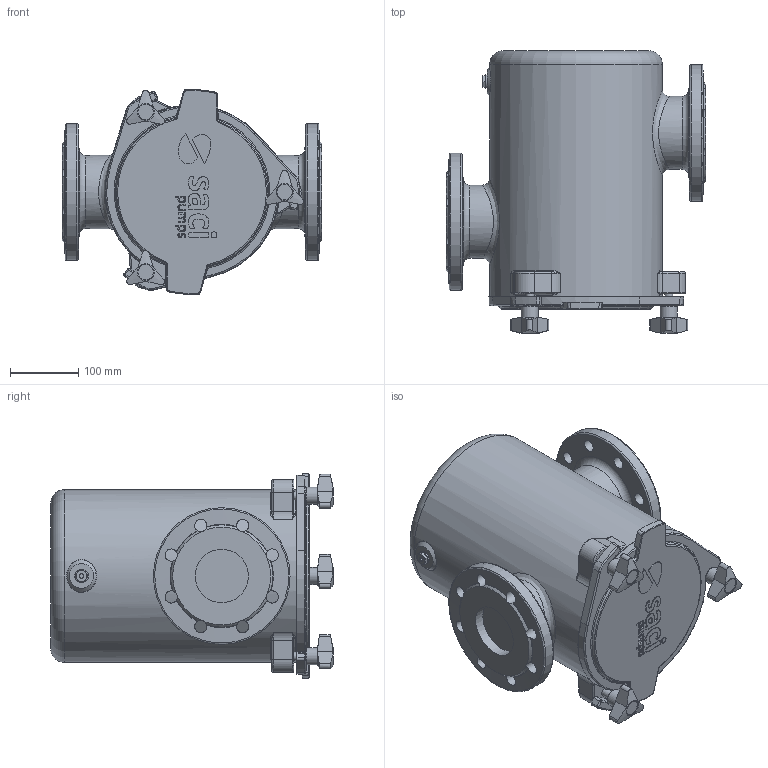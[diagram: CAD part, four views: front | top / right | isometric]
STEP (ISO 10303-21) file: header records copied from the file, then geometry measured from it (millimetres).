
FILE_DESCRIPTION(/* description */ ('Unknown'),/* implementation_level */ '2;1');
FILE_NAME(/* name */ 'PREFILTRO F 80-80 COMPLETO (8 AG)',/* time_stamp */ '2020-11-30T09:02:23+01:00',/* author */ ('Unknown'),/* organization */ ('Unknown'),/* preprocessor_version */ 'ST-DEVELOPER v16.7',/* originating_system */ 'Solid Edge',/* authorisation */ 'Unknown');
FILE_SCHEMA (('AUTOMOTIVE_DESIGN {1 0 10303 214 3 1 1}'));
Length unit declared in the file: millimetre
Products named in the file (1): PREFILTRO F  80-80 COMPLETO (8 AG)
Bounding box: 380 x 413 x 299.77 mm (x, y, z)
Volume: 21200052.9 mm3; surface area: 627645.1 mm2
Topology: 2 solids, 2 shells, 504 faces, 1295 edges, 803 vertices
Faces by surface type: bspline 134, cylinder 118, plane 117, torus 69, cone 66
Full cylindrical faces by diameter (mm): 10.106 x6, 12 x3, 18 x16, 20 x1, 22.5 x3, 25 x3, 78 x2, 107 x2, 200 x2, 253 x1
Entity records: 25451 total; most frequent: CARTESIAN_POINT 11433, ORIENTED_EDGE 2320, DIRECTION 1801, EDGE_CURVE 1160, AXIS2_PLACEMENT_3D 765, VERTEX_POINT 758, FACE_BOUND 640, EDGE_LOOP 639
